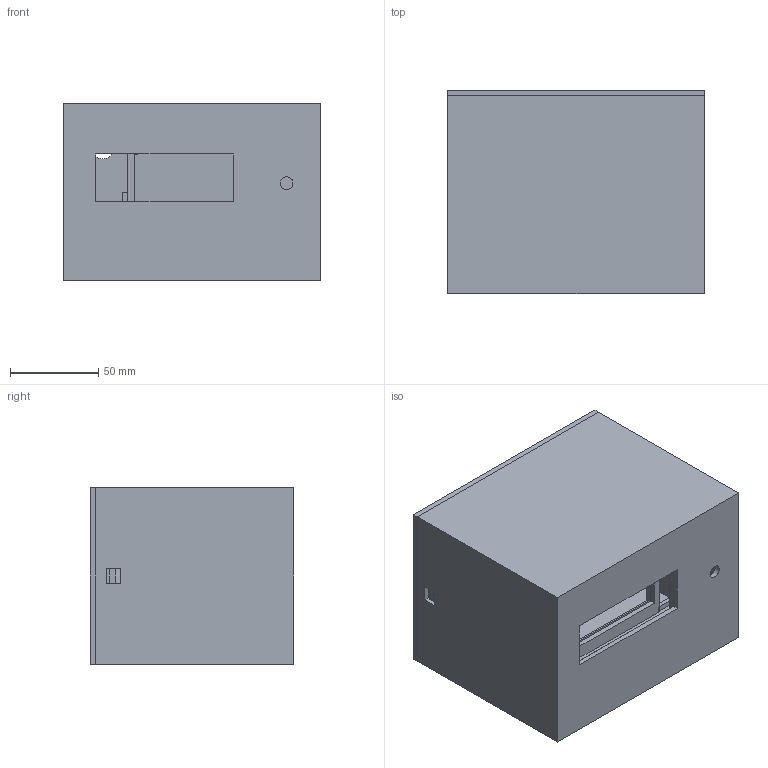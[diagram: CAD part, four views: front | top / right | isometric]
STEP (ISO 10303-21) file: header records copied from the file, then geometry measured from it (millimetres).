
FILE_DESCRIPTION(('Open CASCADE Model'),'2;1');
FILE_NAME('Open CASCADE Shape Model','2026-11-04T20:36:25',('Author'),( 'Open CASCADE'),'Open CASCADE STEP processor 7.8','Open CASCADE 7.8' ,'Unknown');
FILE_SCHEMA(('AUTOMOTIVE_DESIGN { 1 0 10303 214 1 1 1 1 }'));
Length unit declared in the file: millimetre
Products named in the file (4): Boitier_3_pieces_a_imprimer; 01_Coque_supports_et_clips_integres; 02_Berceau_B_et_clips_integres; 03_Panneau_arriere_et_clips_integres
Assembly tree (3 placements, depth 2):
  Boitier_3_pieces_a_imprimer
    01_Coque_supports_et_clips_integres
    02_Berceau_B_et_clips_integres
    03_Panneau_arriere_et_clips_integres
Bounding box: 145 x 115 x 100 mm (x, y, z)
Volume: 272714.7 mm3; surface area: 202363.5 mm2
Topology: 3 solids, 3 shells, 329 faces, 927 edges, 616 vertices
Faces by surface type: plane 324, cylinder 5
Full cylindrical faces by diameter (mm): 7.2 x1, 12.4 x1, 12.5 x2, 16 x1
Entity records: 21984 total; most frequent: CARTESIAN_POINT 4379, DIRECTION 2808, LINE 2112, VECTOR 2112, ORIENTED_EDGE 1854, PCURVE 1854, DEFINITIONAL_REPRESENTATION 1854, EDGE_CURVE 927
